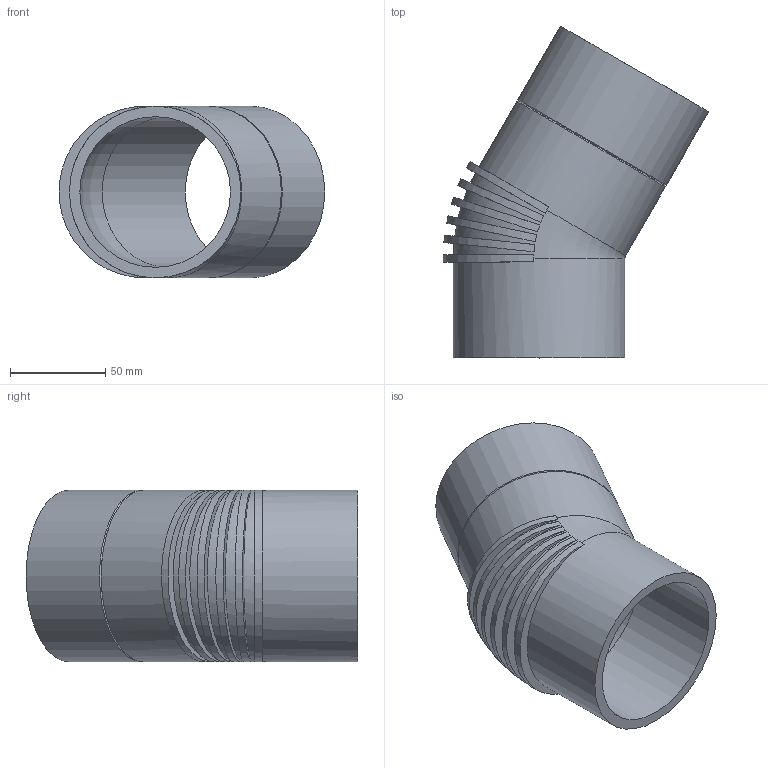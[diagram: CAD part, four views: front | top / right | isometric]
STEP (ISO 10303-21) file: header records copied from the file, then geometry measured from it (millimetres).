
FILE_DESCRIPTION(/* description */ (''),/* implementation_level */ '2;1');
FILE_NAME(/* name */ 'Z:\Geberit\Export\NewStep\Bogen_Ipart\stp\308300.stp',/* time_stamp */ '2014-04-03T16:42:22+02:00',/* author */ ('Marco'),/* organization */ (''),/* preprocessor_version */ 'ST-DEVELOPER v15.2',/* originating_system */ 'Autodesk Inventor 2014',/* authorisation */ '');
FILE_SCHEMA (('AUTOMOTIVE_DESIGN { 1 0 10303 214 3 1 1 }'));
Length unit declared in the file: millimetre
Products named in the file (1): 308300
Bounding box: 139.31 x 174.1 x 90 mm (x, y, z)
Volume: 251356.6 mm3; surface area: 96710.4 mm2
Topology: 1 solids, 1 shells, 29 faces, 78 edges, 51 vertices
Faces by surface type: plane 14, cylinder 11, cone 2, torus 2
Full cylindrical faces by diameter (mm): 79 x2, 90 x3
Entity records: 1186 total; most frequent: CARTESIAN_POINT 522, ORIENTED_EDGE 122, DIRECTION 114, EDGE_CURVE 61, AXIS2_PLACEMENT_3D 55, VERTEX_POINT 47, EDGE_LOOP 44, B_SPLINE_CURVE_WITH_KNOTS 32
